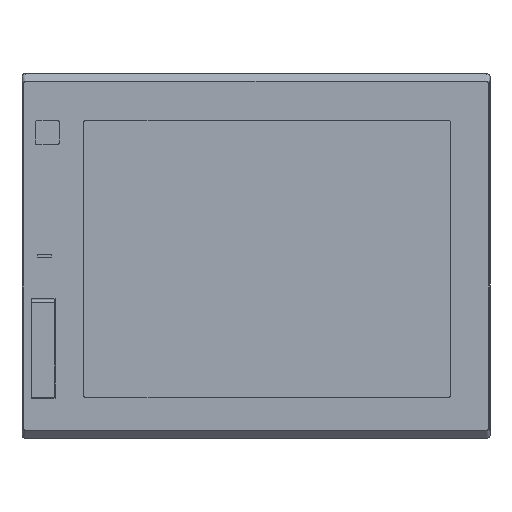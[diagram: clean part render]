
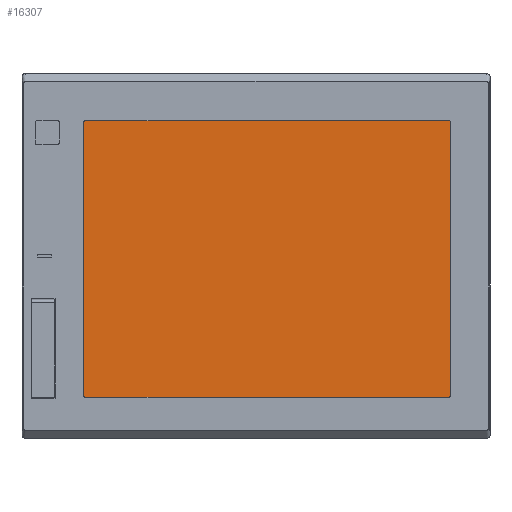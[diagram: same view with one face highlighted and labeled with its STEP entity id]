
A CAD part, top view. The second image highlights one B-rep face of the part: STEP entity #16307.
In plain terms, the highlighted planar face has unit normal (0, 0, 1).
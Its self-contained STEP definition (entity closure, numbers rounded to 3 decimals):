
#6119=CARTESIAN_POINT('',(130.5,90.25,-0.1));
#6120=DIRECTION('',(0.,0.,1.));
#6121=DIRECTION('',(1.,0.,0.));
#6122=AXIS2_PLACEMENT_3D('',#6119,#6120,#6121);
#6124=DIRECTION('',(0.,1.,0.));
#6125=VECTOR('',#6124,184.5);
#6126=CARTESIAN_POINT('',(131.5,-94.25,-0.1));
#6127=LINE('',#6126,#6125);
#6128=CARTESIAN_POINT('',(130.5,-94.25,-0.1));
#6129=DIRECTION('',(0.,0.,1.));
#6130=DIRECTION('',(0.,-1.,0.));
#6131=AXIS2_PLACEMENT_3D('',#6128,#6129,#6130);
#6133=CARTESIAN_POINT('',(-115.5,-94.25,-0.1));
#6134=DIRECTION('',(0.,0.,1.));
#6135=DIRECTION('',(-1.,0.,0.));
#6136=AXIS2_PLACEMENT_3D('',#6133,#6134,#6135);
#6138=CARTESIAN_POINT('',(-115.5,90.25,-0.1));
#6139=DIRECTION('',(0.,0.,1.));
#6140=DIRECTION('',(0.,1.,0.));
#6141=AXIS2_PLACEMENT_3D('',#6138,#6139,#6140);
#6151=DIRECTION('',(-1.,0.,0.));
#6152=VECTOR('',#6151,246.);
#6153=CARTESIAN_POINT('',(130.5,91.25,-0.1));
#6154=LINE('',#6153,#6152);
#6167=DIRECTION('',(0.,-1.,0.));
#6168=VECTOR('',#6167,184.5);
#6169=CARTESIAN_POINT('',(-116.5,90.25,-0.1));
#6170=LINE('',#6169,#6168);
#6183=DIRECTION('',(1.,0.,0.));
#6184=VECTOR('',#6183,246.);
#6185=CARTESIAN_POINT('',(-115.5,-95.25,-0.1));
#6186=LINE('',#6185,#6184);
#7347=CARTESIAN_POINT('',(131.5,-94.25,-0.1));
#7348=CARTESIAN_POINT('',(131.5,90.25,-0.1));
#7349=VERTEX_POINT('',#7347);
#7350=VERTEX_POINT('',#7348);
#7351=CARTESIAN_POINT('',(130.5,91.25,-0.1));
#7352=VERTEX_POINT('',#7351);
#7353=CARTESIAN_POINT('',(130.5,-95.25,-0.1));
#7354=VERTEX_POINT('',#7353);
#7355=CARTESIAN_POINT('',(-115.5,-95.25,-0.1));
#7356=VERTEX_POINT('',#7355);
#7357=CARTESIAN_POINT('',(-116.5,-94.25,-0.1));
#7358=VERTEX_POINT('',#7357);
#7359=CARTESIAN_POINT('',(-116.5,90.25,-0.1));
#7360=VERTEX_POINT('',#7359);
#7361=CARTESIAN_POINT('',(-115.5,91.25,-0.1));
#7362=VERTEX_POINT('',#7361);
#16285=CARTESIAN_POINT('',(7.5,-2.,-0.1));
#16286=DIRECTION('',(0.,0.,1.));
#16287=DIRECTION('',(1.,0.,0.));
#16288=AXIS2_PLACEMENT_3D('',#16285,#16286,#16287);
#16289=PLANE('',#16288);
#16291=ORIENTED_EDGE('',*,*,#16290,.F.);
#16292=ORIENTED_EDGE('',*,*,#16275,.F.);
#16294=ORIENTED_EDGE('',*,*,#16293,.F.);
#16296=ORIENTED_EDGE('',*,*,#16295,.F.);
#16298=ORIENTED_EDGE('',*,*,#16297,.F.);
#16300=ORIENTED_EDGE('',*,*,#16299,.F.);
#16302=ORIENTED_EDGE('',*,*,#16301,.F.);
#16304=ORIENTED_EDGE('',*,*,#16303,.F.);
#16305=EDGE_LOOP('',(#16291,#16292,#16294,#16296,#16298,#16300,#16302,#16304));
#16306=FACE_OUTER_BOUND('',#16305,.F.);
#16307=ADVANCED_FACE('',(#16306),#16289,.T.);
#6123=CIRCLE('',#6122,1.);
#6132=CIRCLE('',#6131,1.);
#6137=CIRCLE('',#6136,1.);
#6142=CIRCLE('',#6141,1.);
#16275=EDGE_CURVE('',#7349,#7350,#6127,.T.);
#16290=EDGE_CURVE('',#7350,#7352,#6123,.T.);
#16293=EDGE_CURVE('',#7354,#7349,#6132,.T.);
#16295=EDGE_CURVE('',#7356,#7354,#6186,.T.);
#16297=EDGE_CURVE('',#7358,#7356,#6137,.T.);
#16299=EDGE_CURVE('',#7360,#7358,#6170,.T.);
#16301=EDGE_CURVE('',#7362,#7360,#6142,.T.);
#16303=EDGE_CURVE('',#7352,#7362,#6154,.T.);
